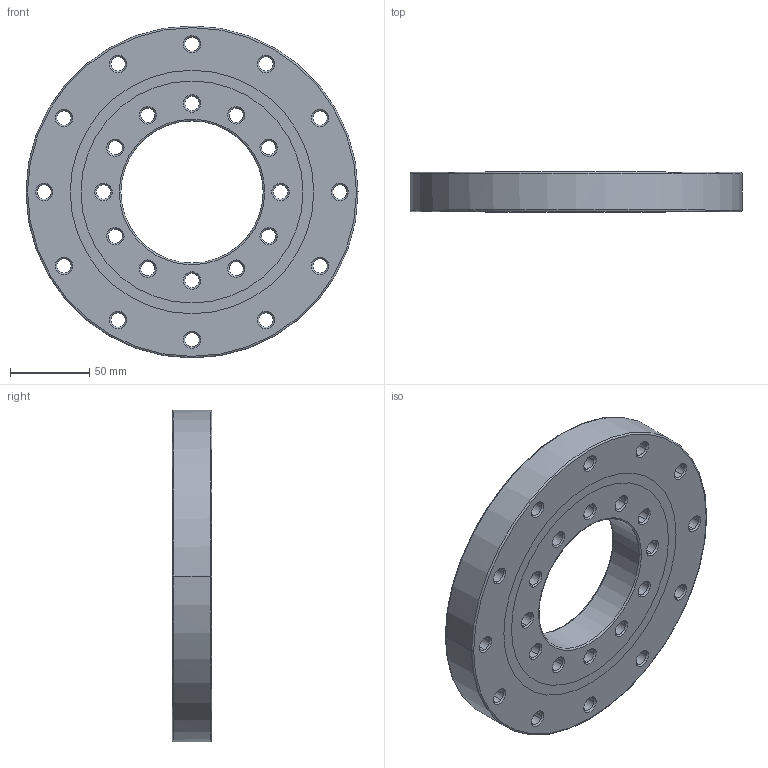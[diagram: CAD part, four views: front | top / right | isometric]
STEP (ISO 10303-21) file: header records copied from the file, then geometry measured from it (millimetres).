
FILE_DESCRIPTION(('no description'),'unknown implementation level');
FILE_NAME('CRBE09025B_58.stp',' ',('HIWIN GmbH'),('CADClick - KiM GmbH - www.kimweb.de'),'unknown preprocess','ACIS','unknown authorization');
FILE_SCHEMA(('automotive_design'));
Length unit declared in the file: millimetre
Products named in the file (4): CRBE09025B_1; CRBE09025B_2; CRBE09025B_3; CRBE09025B
Bounding box: 210 x 25 x 210 mm (x, y, z)
Volume: 578284.7 mm3; surface area: 127317.3 mm2
Topology: 4 solids, 4 shells, 336 faces, 808 edges, 504 vertices
Faces by surface type: cone 176, cylinder 112, plane 32, torus 16
Entity records: 19393 total; most frequent: DIRECTION 2008, STYLED_ITEM 1652, PRESENTATION_STYLE_ASSIGNMENT 1652, CARTESIAN_POINT 1652, COLOUR_RGB 1652, ORIENTED_EDGE 1616, AXIS2_PLACEMENT_3D 860, EDGE_CURVE 808
